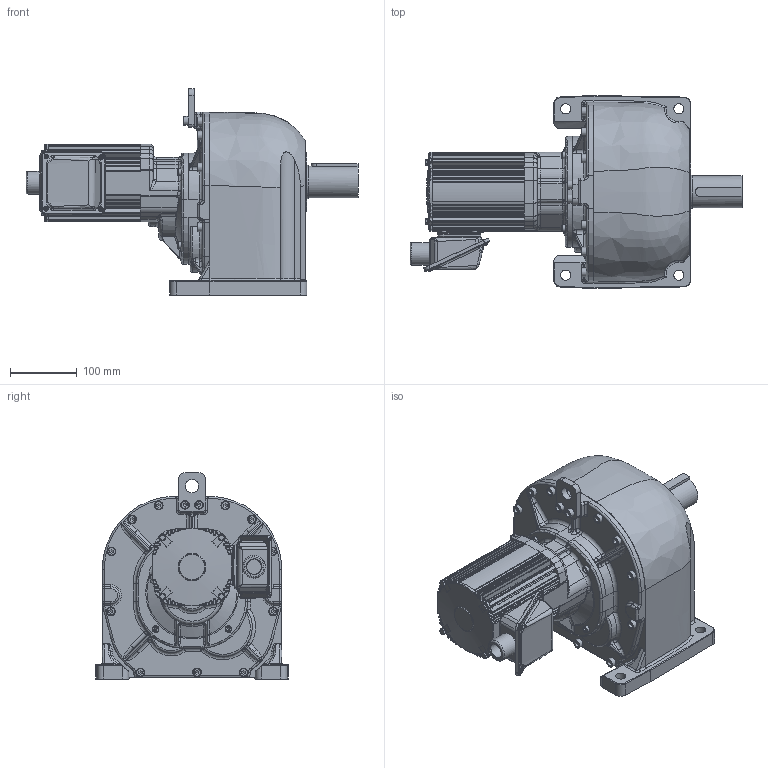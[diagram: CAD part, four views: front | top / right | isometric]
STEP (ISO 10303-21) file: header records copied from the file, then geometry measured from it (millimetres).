
FILE_DESCRIPTION( ( 'Unknown' ), '1' );
FILE_NAME( 'W:/gm/3D-WEB/GV-S/完成品/モータ+減速機/パーツデータ/完成品(GV-S_0.75kw_ブレーキ無_LM_1200).stp', 'Unknown', ( 'Unknown' ), ( 'Unknown' ), 'PSStep 11.0', 'Unknown', ' ' );
FILE_SCHEMA( ( 'AUTOMOTIVE_DESIGN { 1 0 10303 214 1 1 1 1 }' ) );
Length unit declared in the file: millimetre
Products named in the file (3): P164381_G¹°½(L48)
Bounding box: 499.09 x 290 x 310 mm (x, y, z)
Volume: 11827447.7 mm3; surface area: 833608.3 mm2
Topology: 3 solids, 45 shells, 2649 faces, 6582 edges, 4062 vertices
Faces by surface type: plane 1021, cylinder 894, bspline 312, torus 281, cone 104, sphere 37
Full cylindrical faces by diameter (mm): 3.3 x4, 3.8 x4, 4 x2, 4.134 x8, 4.5 x8, 4.6 x4, 4.917 x4, 5 x4, 5.5 x4, 5.8 x4, 6 x8, 6.647 x5, 6.8 x9, 7 x8, 8 x13, 8.2 x1, 9 x11, 9.7 x4, 10 x18, 12 x2, 13 x15, 13.5 x2, 15 x1, 16 x1, 20 x1, 22 x1, 24.117 x2, 34 x1, 42 x1, 48 x1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
Entity records: 150865 total; most frequent: CARTESIAN_POINT 70295, DIRECTION 12570, ORIENTED_EDGE 12062, EDGE_CURVE 6031, AXIS2_PLACEMENT_3D 5098, VERTEX_POINT 3874, EDGE_LOOP 3075, FACE_OUTER_BOUND 2860
